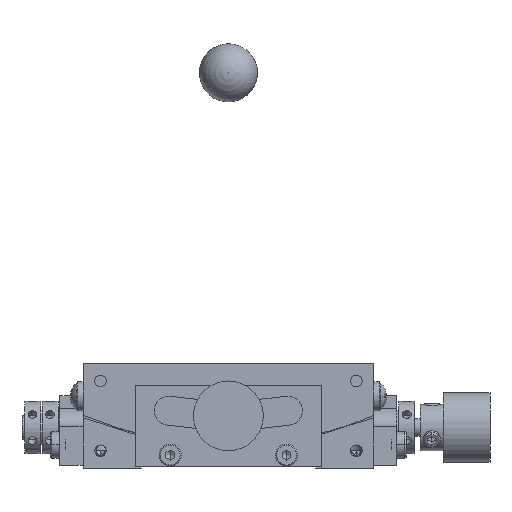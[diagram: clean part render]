
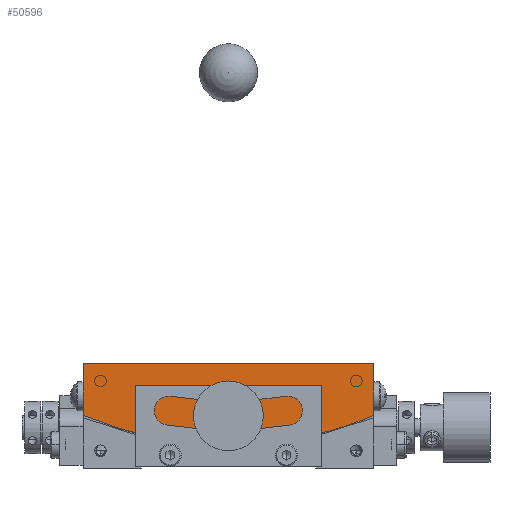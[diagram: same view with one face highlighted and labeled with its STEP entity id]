
A CAD part, front view. The second image highlights one B-rep face of the part: STEP entity #50596.
In plain terms, the highlighted planar face has unit normal (0, -1, 0) as drawn and (-1, 0, 0) by its records, which use the part's own axes.
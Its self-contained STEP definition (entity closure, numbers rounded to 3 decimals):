
#4327 = EDGE_CURVE ( 'NONE', #15797, #15798, #27311, .T. ) ;
#4331 = EDGE_CURVE ( 'NONE', #15744, #15797, #27318, .T. ) ;
#12224 = EDGE_CURVE ( 'NONE', #16089, #16099, #45355, .T. ) ;
#12242 = EDGE_CURVE ( 'NONE', #16110, #16112, #45379, .T. ) ;
#15119 = EDGE_LOOP ( 'NONE', ( #59049, #59050 ) ) ;
#15121 = EDGE_LOOP ( 'NONE', ( #59047, #59048 ) ) ;
#15122 = EDGE_LOOP ( 'NONE', ( #59051, #59052, #59053, #59054, #59055, #59056, #59057, #59058 ) ) ;
#15744 = VERTEX_POINT ( 'NONE', #52944 ) ;
#15797 = VERTEX_POINT ( 'NONE', #53009 ) ;
#15798 = VERTEX_POINT ( 'NONE', #53010 ) ;
#16089 = VERTEX_POINT ( 'NONE', #53301 ) ;
#16099 = VERTEX_POINT ( 'NONE', #53311 ) ;
#16110 = VERTEX_POINT ( 'NONE', #53322 ) ;
#16112 = VERTEX_POINT ( 'NONE', #53324 ) ;
#16187 = VERTEX_POINT ( 'NONE', #53399 ) ;
#16190 = VERTEX_POINT ( 'NONE', #53402 ) ;
#16277 = VERTEX_POINT ( 'NONE', #53489 ) ;
#16297 = VERTEX_POINT ( 'NONE', #53509 ) ;
#17707 = EDGE_CURVE ( 'NONE', #16187, #16190, #54406, .T. ) ;
#17845 = EDGE_CURVE ( 'NONE', #16277, #15797, #50486, .T. ) ;
#17849 = EDGE_CURVE ( 'NONE', #15797, #16297, #50497, .T. ) ;
#17850 = EDGE_CURVE ( 'NONE', #16297, #16187, #56080, .T. ) ;
#17859 = EDGE_CURVE ( 'NONE', #16190, #16277, #56114, .T. ) ;
#17868 = EDGE_CURVE ( 'NONE', #16099, #16089, #50546, .T. ) ;
#17869 = EDGE_CURVE ( 'NONE', #16112, #16110, #50548, .T. ) ;
#17870 = EDGE_CURVE ( 'NONE', #15798, #15744, #50552, .T. ) ;
#23818 = AXIS2_PLACEMENT_3D ( 'NONE', #25928, #25914, #25937 ) ;
#25914 = DIRECTION ( 'NONE',  ( -1., 0., 0. ) ) ;
#25923 = FACE_BOUND ( 'NONE', #15119, .T. ) ;
#25928 = CARTESIAN_POINT ( 'NONE',  ( -25., 0., 50. ) ) ;
#25929 = FACE_BOUND ( 'NONE', #15121, .T. ) ;
#25933 = FACE_OUTER_BOUND ( 'NONE', #15122, .T. ) ;
#25934 = PLANE ( 'NONE',  #23818 ) ;
#25937 = DIRECTION ( 'NONE',  ( 0., -1., 0. ) ) ;
#27311 = CIRCLE ( 'NONE', #27316, 5. ) ;
#27316 = AXIS2_PLACEMENT_3D ( 'NONE', #30025, #30027, #30029 ) ;
#27318 = CIRCLE ( 'NONE', #27322, 5. ) ;
#27322 = AXIS2_PLACEMENT_3D ( 'NONE', #30050, #30052, #30054 ) ;
#30025 = CARTESIAN_POINT ( 'NONE',  ( -25., 0., -9. ) ) ;
#30027 = DIRECTION ( 'NONE',  ( -1., 0., 0. ) ) ;
#30029 = DIRECTION ( 'NONE',  ( 0., 1., 0. ) ) ;
#30050 = CARTESIAN_POINT ( 'NONE',  ( -25., 0., -9. ) ) ;
#30052 = DIRECTION ( 'NONE',  ( -1., 0., 0. ) ) ;
#30054 = DIRECTION ( 'NONE',  ( 0., 1., 0. ) ) ;
#45355 = CIRCLE ( 'NONE', #45362, 1. ) ;
#45362 = AXIS2_PLACEMENT_3D ( 'NONE', #49499, #49500, #49501 ) ;
#45379 = CIRCLE ( 'NONE', #45384, 1. ) ;
#45384 = AXIS2_PLACEMENT_3D ( 'NONE', #49560, #49561, #49562 ) ;
#49499 = CARTESIAN_POINT ( 'NONE',  ( -25., 22., -3. ) ) ;
#49500 = DIRECTION ( 'NONE',  ( -1., 0., 0. ) ) ;
#49501 = DIRECTION ( 'NONE',  ( 0., -0.09, -0.996 ) ) ;
#49560 = CARTESIAN_POINT ( 'NONE',  ( -25., -22., -3. ) ) ;
#49561 = DIRECTION ( 'NONE',  ( -1., 0., 0. ) ) ;
#49562 = DIRECTION ( 'NONE',  ( 0., 0.09, -0.996 ) ) ;
#50169 = VECTOR ( 'NONE', #54415, 1000. ) ;
#50486 = CIRCLE ( 'NONE', #50490, 64. ) ;
#50490 = AXIS2_PLACEMENT_3D ( 'NONE', #56075, #56076, #56077 ) ;
#50497 = CIRCLE ( 'NONE', #50501, 64. ) ;
#50499 = VECTOR ( 'NONE', #56091, 1000. ) ;
#50501 = AXIS2_PLACEMENT_3D ( 'NONE', #56088, #56089, #56090 ) ;
#50524 = VECTOR ( 'NONE', #56116, 1000. ) ;
#50546 = CIRCLE ( 'NONE', #50550, 1. ) ;
#50548 = CIRCLE ( 'NONE', #50554, 1. ) ;
#50550 = AXIS2_PLACEMENT_3D ( 'NONE', #56141, #56142, #56143 ) ;
#50552 = CIRCLE ( 'NONE', #50557, 5. ) ;
#50554 = AXIS2_PLACEMENT_3D ( 'NONE', #56144, #56145, #56146 ) ;
#50557 = AXIS2_PLACEMENT_3D ( 'NONE', #56147, #56148, #56149 ) ;
#50596 = ADVANCED_FACE ( 'NONE', ( #25929, #25923, #25933 ), #25934, .T. ) ;
#52944 = CARTESIAN_POINT ( 'NONE',  ( -25., 5., -9. ) ) ;
#53009 = CARTESIAN_POINT ( 'NONE',  ( -25., 0., -14. ) ) ;
#53010 = CARTESIAN_POINT ( 'NONE',  ( -25., -5., -9. ) ) ;
#53301 = CARTESIAN_POINT ( 'NONE',  ( -25., 22.09, -2.004 ) ) ;
#53311 = CARTESIAN_POINT ( 'NONE',  ( -25., 21.91, -3.996 ) ) ;
#53322 = CARTESIAN_POINT ( 'NONE',  ( -25., -22.09, -2.004 ) ) ;
#53324 = CARTESIAN_POINT ( 'NONE',  ( -25., -21.91, -3.996 ) ) ;
#53399 = CARTESIAN_POINT ( 'NONE',  ( -25., -25., 0. ) ) ;
#53402 = CARTESIAN_POINT ( 'NONE',  ( -25., 25., 0. ) ) ;
#53489 = CARTESIAN_POINT ( 'NONE',  ( -25., 25., -8.915 ) ) ;
#53509 = CARTESIAN_POINT ( 'NONE',  ( -25., -25., -8.915 ) ) ;
#54406 = LINE ( 'NONE', #54407, #50169 ) ;
#54407 = CARTESIAN_POINT ( 'NONE',  ( -25., -25., 0. ) ) ;
#54415 = DIRECTION ( 'NONE',  ( 0., 1., 0. ) ) ;
#56075 = CARTESIAN_POINT ( 'NONE',  ( -25., 0., 50. ) ) ;
#56076 = DIRECTION ( 'NONE',  ( -1., 0., 0. ) ) ;
#56077 = DIRECTION ( 'NONE',  ( 0., -1., 0. ) ) ;
#56079 = CARTESIAN_POINT ( 'NONE',  ( -25., -25., -8.915 ) ) ;
#56080 = LINE ( 'NONE', #56079, #50499 ) ;
#56088 = CARTESIAN_POINT ( 'NONE',  ( -25., 0., 50. ) ) ;
#56089 = DIRECTION ( 'NONE',  ( -1., 0., 0. ) ) ;
#56090 = DIRECTION ( 'NONE',  ( 0., -1., 0. ) ) ;
#56091 = DIRECTION ( 'NONE',  ( 0., 0., 1. ) ) ;
#56114 = LINE ( 'NONE', #56115, #50524 ) ;
#56115 = CARTESIAN_POINT ( 'NONE',  ( -25., 25., 0. ) ) ;
#56116 = DIRECTION ( 'NONE',  ( 0., 0., -1. ) ) ;
#56141 = CARTESIAN_POINT ( 'NONE',  ( -25., 22., -3. ) ) ;
#56142 = DIRECTION ( 'NONE',  ( -1., 0., 0. ) ) ;
#56143 = DIRECTION ( 'NONE',  ( 0., -0.09, -0.996 ) ) ;
#56144 = CARTESIAN_POINT ( 'NONE',  ( -25., -22., -3. ) ) ;
#56145 = DIRECTION ( 'NONE',  ( -1., 0., 0. ) ) ;
#56146 = DIRECTION ( 'NONE',  ( 0., 0.09, -0.996 ) ) ;
#56147 = CARTESIAN_POINT ( 'NONE',  ( -25., 0., -9. ) ) ;
#56148 = DIRECTION ( 'NONE',  ( -1., 0., 0. ) ) ;
#56149 = DIRECTION ( 'NONE',  ( 0., 1., 0. ) ) ;
#59047 = ORIENTED_EDGE ( 'NONE', *, *, #17868, .F. ) ;
#59048 = ORIENTED_EDGE ( 'NONE', *, *, #12224, .F. ) ;
#59049 = ORIENTED_EDGE ( 'NONE', *, *, #17869, .F. ) ;
#59050 = ORIENTED_EDGE ( 'NONE', *, *, #12242, .F. ) ;
#59051 = ORIENTED_EDGE ( 'NONE', *, *, #17845, .T. ) ;
#59052 = ORIENTED_EDGE ( 'NONE', *, *, #4331, .F. ) ;
#59053 = ORIENTED_EDGE ( 'NONE', *, *, #17870, .F. ) ;
#59054 = ORIENTED_EDGE ( 'NONE', *, *, #4327, .F. ) ;
#59055 = ORIENTED_EDGE ( 'NONE', *, *, #17849, .T. ) ;
#59056 = ORIENTED_EDGE ( 'NONE', *, *, #17850, .T. ) ;
#59057 = ORIENTED_EDGE ( 'NONE', *, *, #17707, .T. ) ;
#59058 = ORIENTED_EDGE ( 'NONE', *, *, #17859, .T. ) ;
